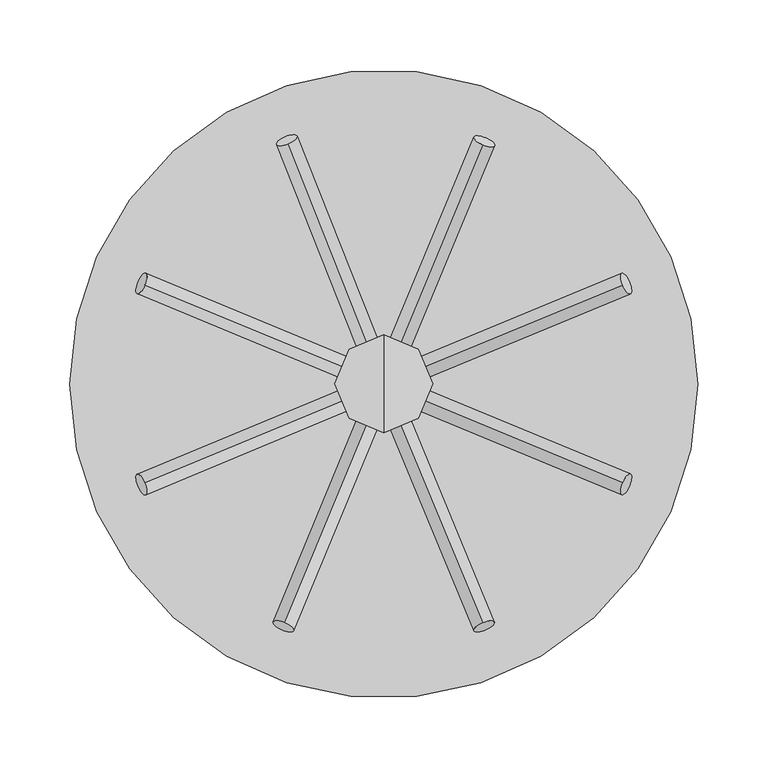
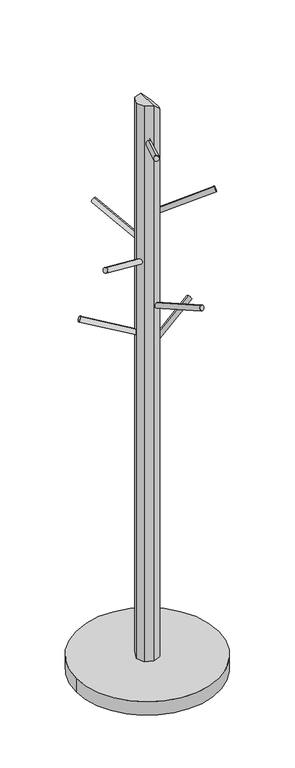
"""IFC4 building model written with IfcOpenShell, lengths in millimetres: furniture geometry, Otto clock stand : Otto clock stand."""

from ifc_helpers import new_model, si_unit, point, frame, origin, origin_with_axes, origin_2d, place, context, project, spatial, circle_curve, trimmed, segment, composite_curve, outline, extrude, faceted_brep, source, transform, mapped, element, save


def furniture_604881e0(model_context):
    return source(origin(), model_context, "Body", "SolidModel", [
        extrude(outline(composite_curve([segment(trimmed(circle_curve(origin_2d(), 8.0), [point((0.0, 8.0))], [point((0.0, -7.9999999))], False, "CARTESIAN"), True, "CONTINUOUS"), segment(trimmed(circle_curve(origin_2d(), 8.0), [point((0.0, -7.9999999))], [point((0.0, 8.0))], False, "CARTESIAN"), True, "CONTINUOUS")], self_intersect=False)), frame((-0.138482, -0.1176169, 1415.0264837), z_axis=(-0.34671899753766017, 0.8733888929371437, 0.3420201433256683), x_axis=(0.9294410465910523, 0.3689706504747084, 0.0)), (0.0, 0.0, 1.0), 200.0),
        extrude(outline(composite_curve([segment(trimmed(circle_curve(origin_2d(), 8.0), [point((0.0, -7.9999999))], [point((0.0, 8.0))], False, "CARTESIAN"), True, "CONTINUOUS"), segment(trimmed(circle_curve(origin_2d(), 8.0), [point((0.0, 8.0))], [point((0.0, -7.9999999))], False, "CARTESIAN"), True, "CONTINUOUS")], self_intersect=False)), frame((0.0123248, 0.0846403, 1665.0580515), z_axis=(0.3597710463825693, 0.8680938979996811, 0.3420201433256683), x_axis=(-0.9238062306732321, 0.3828603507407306, 0.0)), (0.0, 0.0, 1.0), 200.0),
        extrude(outline(composite_curve([segment(trimmed(circle_curve(origin_2d(), 8.0), [point((1e-07, -8.0))], [point((1e-07, 7.9999999))], False, "CARTESIAN"), True, "CONTINUOUS"), segment(trimmed(circle_curve(origin_2d(), 8.0), [point((1e-07, 7.9999999))], [point((1e-07, -8.0))], False, "CARTESIAN"), True, "CONTINUOUS")], self_intersect=False)), frame((-0.0624995, -0.0933079, 1765.0508955), z_axis=(-0.35933259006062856, -0.8682754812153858, 0.3420201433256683), x_axis=(0.9239994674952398, -0.3823937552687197, 0.0)), (0.0, 0.0, 1.0), 200.0),
        extrude(outline(composite_curve([segment(trimmed(circle_curve(origin_2d(), 8.0), [point((0.0, 7.9999999))], [point((0.0, -8.0))], False, "CARTESIAN"), True, "CONTINUOUS"), segment(trimmed(circle_curve(origin_2d(), 8.0), [point((0.0, -8.0))], [point((0.0, 7.9999999))], False, "CARTESIAN"), True, "CONTINUOUS")], self_intersect=False)), frame((-0.1224958, 0.0452094, 1364.9855399), z_axis=(-0.8678206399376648, -0.3604296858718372, 0.3420201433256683), x_axis=(-0.3835612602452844, 0.9235154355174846, 0.0)), (0.0, 0.0, 1.0), 200.0),
        extrude(outline(composite_curve([segment(trimmed(circle_curve(origin_2d(), 8.0), [point((0.0, -8.0))], [point((1e-07, 7.9999999))], False, "CARTESIAN"), True, "CONTINUOUS"), segment(trimmed(circle_curve(origin_2d(), 8.0), [point((1e-07, 7.9999999))], [point((0.0, -8.0))], False, "CARTESIAN"), True, "CONTINUOUS")], self_intersect=False)), frame((0.0006586, -0.0163829, 1115.0519391), z_axis=(-0.8681273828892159, 0.35969023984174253, 0.3420201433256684), x_axis=(-0.3827743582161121, -0.9238418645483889, 0.0)), (0.0, 0.0, 1.0), 200.0),
        extrude(outline(composite_curve([segment(trimmed(circle_curve(origin_2d(), 8.0), [point((1e-07, 8.0))], [point((0.0, -7.9999999))], False, "CARTESIAN"), True, "CONTINUOUS"), segment(trimmed(circle_curve(origin_2d(), 8.0), [point((0.0, -7.9999999))], [point((1e-07, 8.0))], False, "CARTESIAN"), True, "CONTINUOUS")], self_intersect=False)), frame((0.014714, -0.0985102, 1215.0320634), z_axis=(0.359642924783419, -0.8681469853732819, 0.3420201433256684), x_axis=(-0.9238627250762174, -0.3827240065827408, 0.0)), (0.0, 0.0, 1.0), 200.0),
        extrude(outline(composite_curve([segment(trimmed(circle_curve(origin_2d(), 8.0), [point((1e-07, 7.9999999))], [point((0.0, -8.0000001))], False, "CARTESIAN"), True, "CONTINUOUS"), segment(trimmed(circle_curve(origin_2d(), 8.0), [point((0.0, -8.0000001))], [point((1e-07, 7.9999999))], False, "CARTESIAN"), True, "CONTINUOUS")], self_intersect=False)), frame((-0.001367, 0.0009778, 1515.1285869), z_axis=(0.8681619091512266, -0.35960689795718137, 0.3420201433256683), x_axis=(-0.38268566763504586, -0.9238786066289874, 0.0)), (0.0, 0.0, 1.0), 200.0),
        extrude(outline(composite_curve([segment(trimmed(circle_curve(origin_2d(), 8.0), [point((0.0, 8.0))], [point((1e-07, -7.9999999))], False, "CARTESIAN"), True, "CONTINUOUS"), segment(trimmed(circle_curve(origin_2d(), 8.0), [point((1e-07, -7.9999999))], [point((0.0, 8.0))], False, "CARTESIAN"), True, "CONTINUOUS")], self_intersect=False)), frame((-0.0272076, 0.028245, 1065.1232861), z_axis=(0.8682421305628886, 0.35941316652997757, 0.3420201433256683), x_axis=(0.3824795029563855, -0.9239639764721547, 0.0)), (0.0, 0.0, 1.0), 200.0),
        faceted_brep([(-1.6e-06, 35.0000054, 1900.0), (-24.7487352, 24.7487389, 1900.0), (-35.0000016, 5.4e-06, 1900.0), (-24.7487352, -24.7487281, 1900.0), (-1.6e-06, -34.9999946, 1900.0), (-1.6e-06, 35.0000054, 45.0), (24.7487319, 24.7487389, 45.0), (34.9999984, 5.4e-06, 45.0), (24.7487319, -24.7487281, 45.0), (-1.6e-06, -34.9999946, 45.0), (-24.7487352, -24.7487281, 45.0), (-35.0000016, 5.4e-06, 45.0), (-24.7487352, 24.7487389, 45.0), (24.7487319, -24.7487281, 1875.2512665), (34.9999984, 5.4e-06, 1865.0), (24.7487319, 24.7487389, 1875.2512665)], [[[0, 1, 2, 3, 4]], [[5, 6, 7, 8, 9, 10, 11, 12]], [[1, 0, 5, 12]], [[2, 1, 12, 11]], [[3, 2, 11, 10]], [[4, 3, 10, 9]], [[9, 8, 13, 4]], [[8, 7, 14, 13]], [[7, 6, 15, 14]], [[6, 5, 0, 15]], [[0, 4, 13, 14, 15]]]),
        extrude(outline(composite_curve([segment(trimmed(circle_curve(origin_2d(), 225.0), [point((-225.0, 0.0))], [point((225.0, 0.0))], False, "CARTESIAN"), True, "CONTINUOUS"), segment(trimmed(circle_curve(origin_2d(), 225.0), [point((225.0, 0.0))], [point((-225.0, 0.0))], False, "CARTESIAN"), True, "CONTINUOUS")], self_intersect=False)), origin_with_axes(), (0.0, 0.0, 1.0), 45.0),
    ])


if __name__ == "__main__":
    model = new_model("IFC4")
    model_context = context("Model", 3, world=origin())
    ifc_project = project(units=[si_unit("LENGTHUNIT", "METRE", prefix="MILLI")], contexts=[model_context])
    site = spatial("IfcSite", under=ifc_project)
    building = spatial("IfcBuilding", under=site)
    placement = place(None, origin())
    furniture_shape = furniture_604881e0(model_context)
    element("IfcFurniture", 1, ObjectType="Otto clock stand : Otto clock stand", at=placement, inside=building, context=model_context, shape_type="MappedRepresentation", body=[
        mapped(furniture_shape, transform((0.0, 0.0, 0.0), x_axis=(1.0, 0.0, 0.0), y_axis=(0.0, 1.0, 0.0), z_axis=(0.0, 0.0, 1.0))),
    ])
    save(model, "model.ifc")
